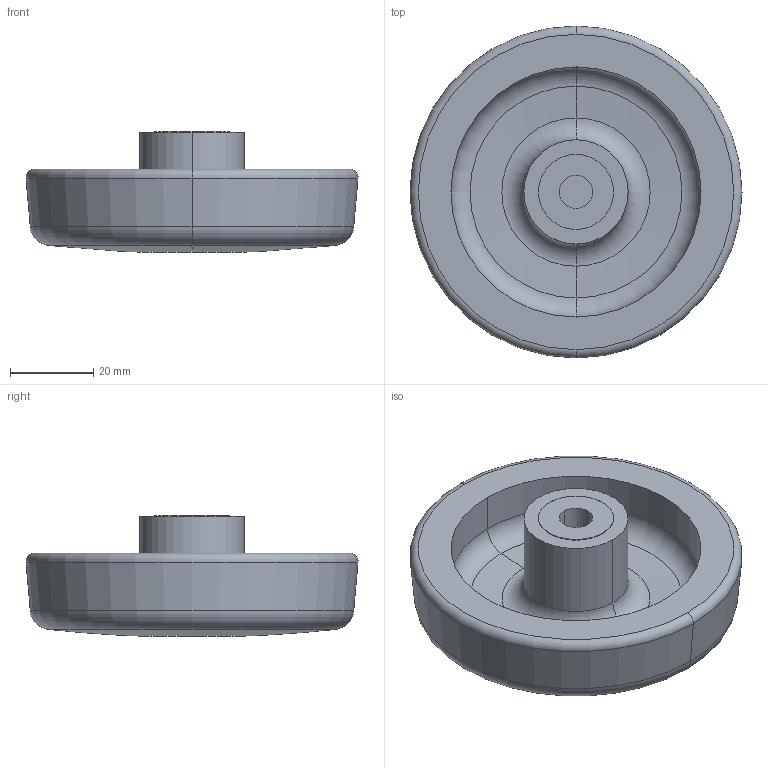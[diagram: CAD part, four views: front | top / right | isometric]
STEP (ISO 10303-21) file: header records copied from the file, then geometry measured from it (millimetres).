
FILE_DESCRIPTION (( 'STEP AP214' ), '1' );
FILE_NAME ('521-80-B8-A.step', '2020-05-29T13:27:47', ( '' ), ( '' ), 'SwSTEP 2.0', 'SolidWorks 2019', '' );
FILE_SCHEMA (( 'AUTOMOTIVE_DESIGN' ));
Length unit declared in the file: millimetre
Products named in the file (1): 521-80-B8-A
Bounding box: 79.62 x 79.62 x 29 mm (x, y, z)
Volume: 59503.1 mm3; surface area: 18895.3 mm2
Topology: 1 solids, 1 shells, 37 faces, 72 edges, 42 vertices
Faces by surface type: cylinder 14, torus 10, plane 7, sphere 4, cone 2
Entity records: 1003 total; most frequent: DIRECTION 204, CARTESIAN_POINT 152, ORIENTED_EDGE 144, AXIS2_PLACEMENT_3D 94, EDGE_CURVE 72, CIRCLE 56, EDGE_LOOP 42, VERTEX_POINT 42
